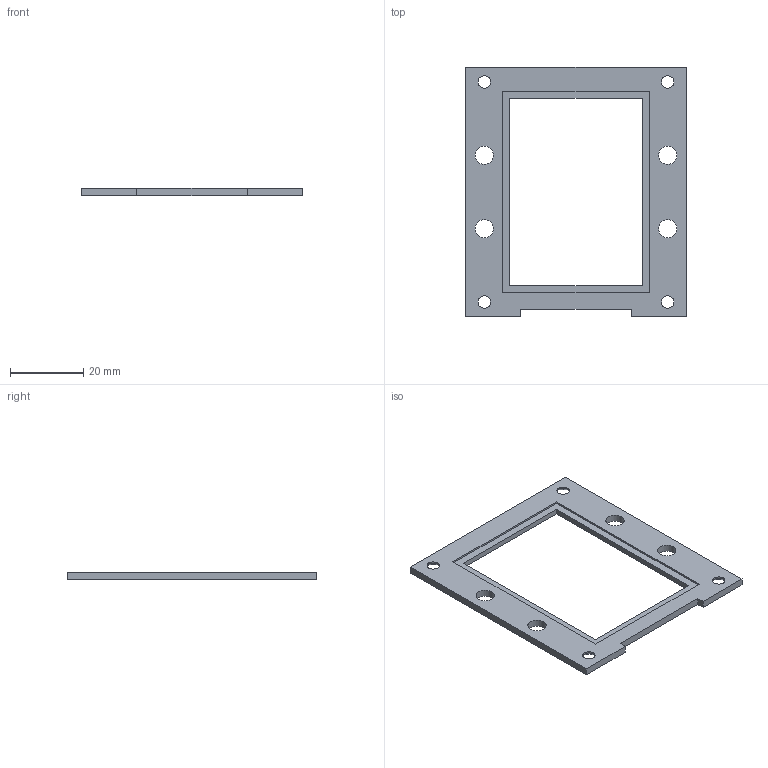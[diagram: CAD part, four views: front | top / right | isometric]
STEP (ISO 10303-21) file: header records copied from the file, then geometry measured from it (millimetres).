
FILE_DESCRIPTION(/* description */ (''),/* implementation_level */ '2;1');
FILE_NAME(/* name */ '',/* time_stamp */ '2026-05-08T17:19:21+08:00',/* author */ ('32769'),/* organization */ (''),/* preprocessor_version */ 'ST-DEVELOPER v20',/* originating_system */ 'Autodesk Inventor 2025',/* authorisation */ '');
FILE_SCHEMA (('AUTOMOTIVE_DESIGN { 1 0 10303 214 3 1 1 }'));
Length unit declared in the file: millimetre
Products named in the file (1): 1521249-8-0035 Ò»¼¶´°Æ¬
Ñ¹°å²àÃæ
Bounding box: 60 x 68 x 2 mm (x, y, z)
Volume: 3884.4 mm3; surface area: 5198.7 mm2
Topology: 1 solids, 1 shells, 31 faces, 80 edges, 52 vertices
Faces by surface type: plane 19, cylinder 8, cone 4
Full cylindrical faces by diameter (mm): 3.4 x4, 5 x4
Entity records: 1021 total; most frequent: DIRECTION 164, CARTESIAN_POINT 164, ORIENTED_EDGE 160, EDGE_CURVE 80, LINE 60, VECTOR 60, VERTEX_POINT 52, AXIS2_PLACEMENT_3D 52
